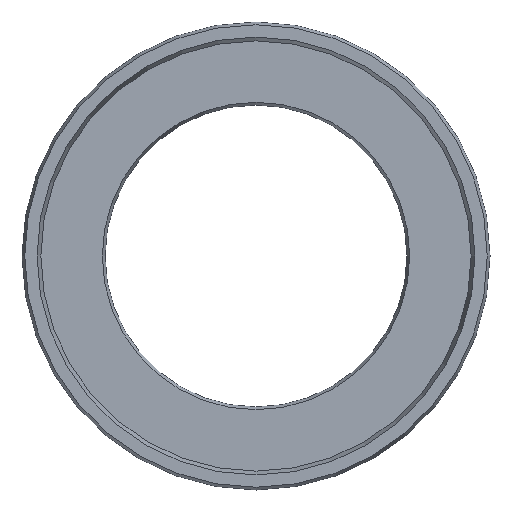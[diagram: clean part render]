
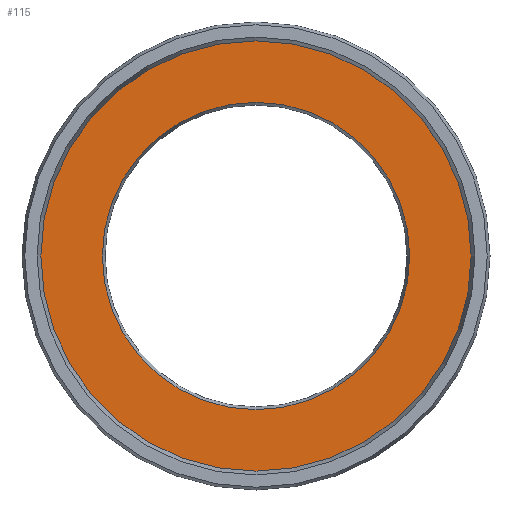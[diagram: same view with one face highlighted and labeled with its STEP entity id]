
A CAD part, left-side view. The second image highlights one B-rep face of the part: STEP entity #115.
In plain terms, the highlighted planar face has unit normal (-1, 0, 0).
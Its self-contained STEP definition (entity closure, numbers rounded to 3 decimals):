
#115=ADVANCED_FACE('',(#149,#150),#141,.F.);
#141=PLANE('',#386);
#149=FACE_BOUND('',#201,.T.);
#150=FACE_BOUND('',#202,.T.);
#201=EDGE_LOOP('',(#253));
#202=EDGE_LOOP('',(#254));
#253=ORIENTED_EDGE('',*,*,#331,.T.);
#254=ORIENTED_EDGE('',*,*,#332,.T.);
#305=VERTEX_POINT('',#544);
#306=VERTEX_POINT('',#546);
#331=EDGE_CURVE('',#305,#305,#357,.T.);
#332=EDGE_CURVE('',#306,#306,#358,.T.);
#357=CIRCLE('',#384,20.364);
#358=CIRCLE('',#385,28.5);
#384=AXIS2_PLACEMENT_3D('',#543,#438,#439);
#385=AXIS2_PLACEMENT_3D('',#545,#440,#441);
#386=AXIS2_PLACEMENT_3D('',#547,#442,#443);
#438=DIRECTION('',(1.,0.,0.));
#439=DIRECTION('',(0.,0.,-1.));
#440=DIRECTION('',(-1.,0.,0.));
#441=DIRECTION('',(0.,0.,1.));
#442=DIRECTION('',(1.,0.,0.));
#443=DIRECTION('',(0.,0.,-1.));
#543=CARTESIAN_POINT('',(0.,0.,0.));
#544=CARTESIAN_POINT('',(0.,0.,-20.364));
#545=CARTESIAN_POINT('',(0.,0.,0.));
#546=CARTESIAN_POINT('',(0.,0.,28.5));
#547=CARTESIAN_POINT('',(0.,28.5,0.));
